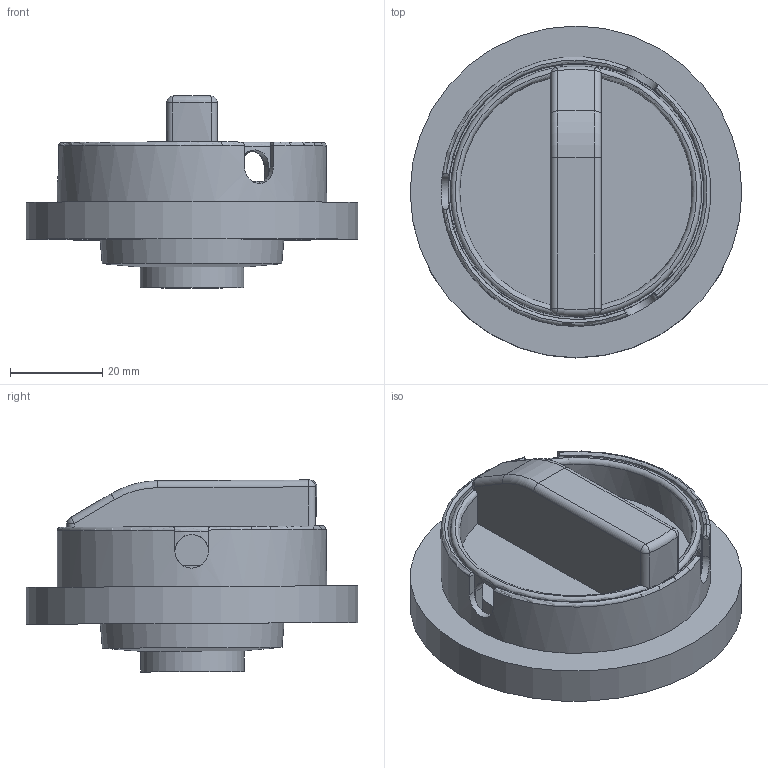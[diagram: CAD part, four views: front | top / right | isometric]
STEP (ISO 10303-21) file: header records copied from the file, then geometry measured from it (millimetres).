
FILE_DESCRIPTION (( 'STEP AP214' ), '1' );
FILE_NAME ('Ðóêîÿòêà àâàðèéíàÿ OptiSwitch DI-16-63 (äëÿ OptiSwitch DI-80-125Ñ ñ âàëîì OptiSwitch DI-16-63 200ìì).STEP', '2023-03-26T21:32:44', ( 'Ïîëüçîâàòåëü' ), ( '' ), 'SwSTEP 2.0', 'SolidWorks 2018', '' );
FILE_SCHEMA (( 'AUTOMOTIVE_DESIGN' ));
Length unit declared in the file: millimetre
Products named in the file (2): Ðóêîÿòêà àâàðèéíàÿ OptiSwitch DI-16-63 (äëÿ OptiSwitch DI-80-125Ñ ñ âàëîì OptiSwitch DI-16-63 200ìì); Ðóêîÿòêà àâàðèéíàÿ OptiSwitch DI-16-125
Assembly tree (1 placements, depth 2):
  Ðóêîÿòêà àâàðèéíàÿ OptiSwitch DI-16-63 (äëÿ OptiSwitch DI-80-125Ñ ñ âàëîì OptiSwitch DI-16-63 200ìì)
    Ðóêîÿòêà àâàðèéíàÿ OptiSwitch DI-16-125
Bounding box: 72 x 72.04 x 41.69 mm (x, y, z)
Volume: 53432.3 mm3; surface area: 23182.7 mm2
Topology: 1 solids, 1 shells, 91 faces, 243 edges, 151 vertices
Faces by surface type: cylinder 37, plane 34, torus 13, sphere 4, cone 2, bspline 1
Full cylindrical faces by diameter (mm): 10 x1, 22.5 x1, 48 x1, 54.5 x1, 55.5 x1, 58.5 x1, 69 x1, 72 x1
Entity records: 3901 total; most frequent: CARTESIAN_POINT 1098, ORIENTED_EDGE 452, DIRECTION 429, EDGE_CURVE 226, AXIS2_PLACEMENT_3D 165, VERTEX_POINT 148, EDGE_LOOP 108, VECTOR 99
